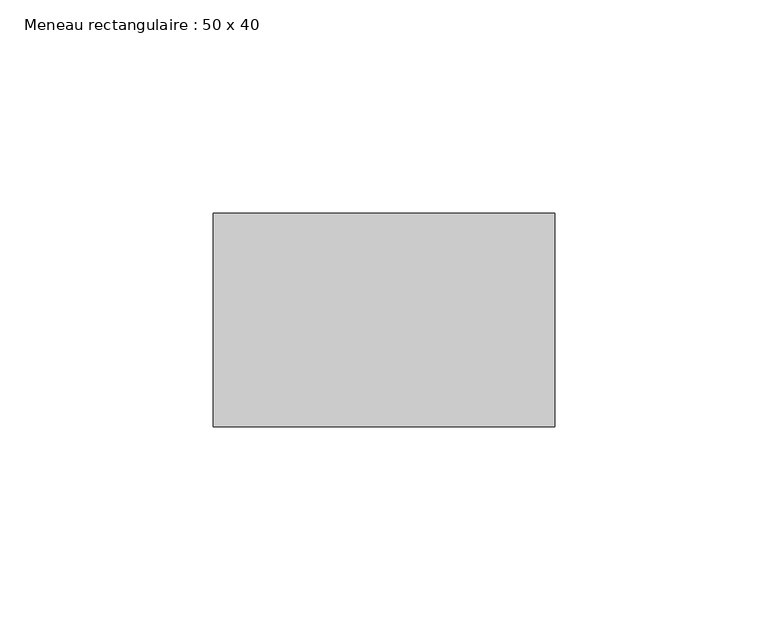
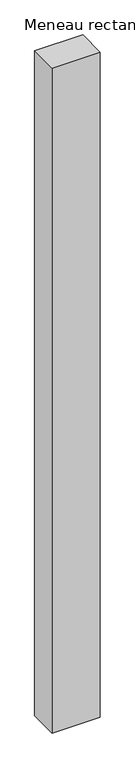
"""IFC4 building model written with IfcOpenShell, lengths in millimetres: member geometry, Meneau rectangulaire : 50 x 40."""

from ifc_helpers import new_model, si_unit, frame, origin, place, context, project, spatial, polyline, outline, extrude, source, transform, mapped, element, save


def meneau_rectangulaire_50_x_40_a9662a05(model_context):
    return source(origin(), model_context, "Body", "SweptSolid", [
        extrude(outline(polyline([(40.0, 0.0), (40.0, -50.0), (-40.0, -50.0), (-40.0, 0.0), (40.0, 0.0)])), frame((0.0, 0.0, -1166.9652306), z_axis=(0.0, 0.0, 1.0), x_axis=(1.0, 0.0, 0.0)), (0.0, 0.0, 1.0), 1166.9652306),
    ])


if __name__ == "__main__":
    model = new_model("IFC4")
    model_context = context("Model", 3, world=origin())
    ifc_project = project(units=[si_unit("LENGTHUNIT", "METRE", prefix="MILLI")], contexts=[model_context])
    site = spatial("IfcSite", under=ifc_project)
    building = spatial("IfcBuilding", under=site)
    placement = place(None, origin())
    meneau_rectangulaire_50_x_40_shape = meneau_rectangulaire_50_x_40_a9662a05(model_context)
    element("IfcMember", 1, ObjectType="Meneau rectangulaire : 50 x 40", at=placement, inside=building, context=model_context, shape_type="MappedRepresentation", body=[
        mapped(meneau_rectangulaire_50_x_40_shape, transform((0.0, 0.0, 0.0), x_axis=(1.0, 0.0, 0.0), y_axis=(0.0, 1.0, 0.0), z_axis=(0.0, 0.0, 1.0))),
    ])
    save(model, "model.ifc")
